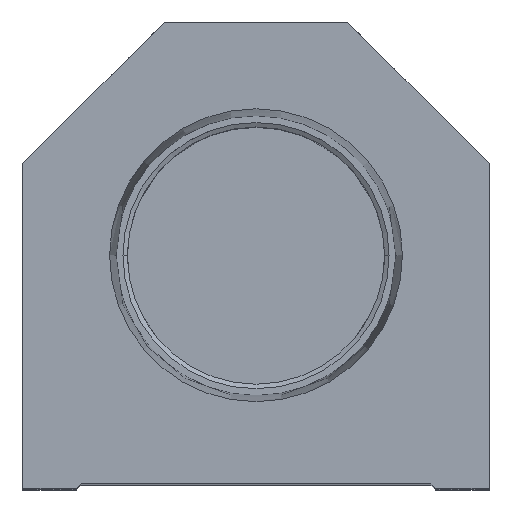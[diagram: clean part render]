
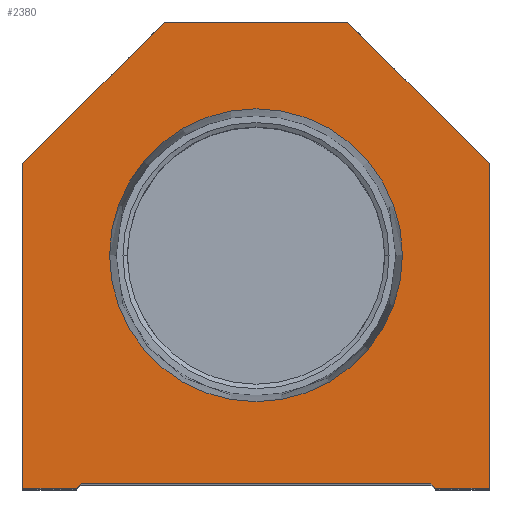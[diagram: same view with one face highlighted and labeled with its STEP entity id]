
A CAD part, top view. The second image highlights one B-rep face of the part: STEP entity #2380.
In plain terms, the highlighted planar face has unit normal (0, 0, 1).
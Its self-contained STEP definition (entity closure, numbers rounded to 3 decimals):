
#156 = CARTESIAN_POINT ( 'NONE',  ( 10., 50.8, 0. ) ) ;
#294 = ORIENTED_EDGE ( 'NONE', *, *, #15421, .T. ) ;
#336 = ORIENTED_EDGE ( 'NONE', *, *, #3726, .T. ) ;
#389 = VERTEX_POINT ( 'NONE', #13957 ) ;
#472 = LINE ( 'NONE', #15174, #5625 ) ;
#514 = CARTESIAN_POINT ( 'NONE',  ( -25.4, 0., 0. ) ) ;
#653 = LINE ( 'NONE', #847, #7011 ) ;
#717 = ORIENTED_EDGE ( 'NONE', *, *, #16349, .T. ) ;
#811 = ORIENTED_EDGE ( 'NONE', *, *, #9979, .T. ) ;
#847 = CARTESIAN_POINT ( 'NONE',  ( -19.05, 0.5, 0. ) ) ;
#918 = CARTESIAN_POINT ( 'NONE',  ( 0., 25.4, 0. ) ) ;
#1417 = CARTESIAN_POINT ( 'NONE',  ( -19.05, 0., 0. ) ) ;
#1711 = CARTESIAN_POINT ( 'NONE',  ( 19.05, 0.5, 0. ) ) ;
#1804 = CARTESIAN_POINT ( 'NONE',  ( 15.947, 25.4, 0. ) ) ;
#2027 = VERTEX_POINT ( 'NONE', #1804 ) ;
#2032 = DIRECTION ( 'NONE',  ( 1., 0., 0. ) ) ;
#2042 = DIRECTION ( 'NONE',  ( 1., 0., 0. ) ) ;
#2380 = ADVANCED_FACE ( 'NONE', ( #16688, #9630 ), #5266, .T. ) ;
#2641 = LINE ( 'NONE', #8503, #4528 ) ;
#2655 = EDGE_CURVE ( 'NONE', #6151, #4545, #4437, .T. ) ;
#3453 = ORIENTED_EDGE ( 'NONE', *, *, #16468, .T. ) ;
#3561 = DIRECTION ( 'NONE',  ( 0., 0., 1. ) ) ;
#3641 = CARTESIAN_POINT ( 'NONE',  ( 19.05, 0., 0. ) ) ;
#3690 = CIRCLE ( 'NONE', #15363, 15.947 ) ;
#3726 = EDGE_CURVE ( 'NONE', #8196, #14340, #653, .T. ) ;
#3919 = DIRECTION ( 'NONE',  ( 0.707, -0.707, 0. ) ) ;
#4387 = ORIENTED_EDGE ( 'NONE', *, *, #14028, .T. ) ;
#4437 = LINE ( 'NONE', #15863, #13828 ) ;
#4528 = VECTOR ( 'NONE', #11112, 1000. ) ;
#4545 = VERTEX_POINT ( 'NONE', #514 ) ;
#4721 = DIRECTION ( 'NONE',  ( 1., 0., 0. ) ) ;
#4757 = VERTEX_POINT ( 'NONE', #13834 ) ;
#5225 = LINE ( 'NONE', #8099, #9725 ) ;
#5266 = PLANE ( 'NONE',  #12630 ) ;
#5349 = EDGE_LOOP ( 'NONE', ( #3453, #4387, #336, #9500, #8948, #811, #294, #6467, #717, #5364 ) ) ;
#5352 = DIRECTION ( 'NONE',  ( 1., 0., 0. ) ) ;
#5364 = ORIENTED_EDGE ( 'NONE', *, *, #2655, .T. ) ;
#5625 = VECTOR ( 'NONE', #6221, 1000. ) ;
#5989 = LINE ( 'NONE', #156, #14081 ) ;
#6151 = VERTEX_POINT ( 'NONE', #16848 ) ;
#6221 = DIRECTION ( 'NONE',  ( 0.707, 0.707, 0. ) ) ;
#6272 = ORIENTED_EDGE ( 'NONE', *, *, #17681, .F. ) ;
#6467 = ORIENTED_EDGE ( 'NONE', *, *, #15540, .T. ) ;
#6651 = LINE ( 'NONE', #18059, #11264 ) ;
#7011 = VECTOR ( 'NONE', #12310, 1000. ) ;
#7425 = LINE ( 'NONE', #11907, #8720 ) ;
#7663 = CARTESIAN_POINT ( 'NONE',  ( 0., 25.4, 0. ) ) ;
#8099 = CARTESIAN_POINT ( 'NONE',  ( 9.775, 9.775, 0. ) ) ;
#8196 = VERTEX_POINT ( 'NONE', #11609 ) ;
#8503 = CARTESIAN_POINT ( 'NONE',  ( -25.4, 35.4, 0. ) ) ;
#8545 = CARTESIAN_POINT ( 'NONE',  ( -10., 50.8, 0. ) ) ;
#8720 = VECTOR ( 'NONE', #14877, 1000. ) ;
#8758 = VERTEX_POINT ( 'NONE', #10933 ) ;
#8948 = ORIENTED_EDGE ( 'NONE', *, *, #11333, .T. ) ;
#9223 = VECTOR ( 'NONE', #2042, 1000. ) ;
#9500 = ORIENTED_EDGE ( 'NONE', *, *, #17557, .T. ) ;
#9518 = CIRCLE ( 'NONE', #10111, 15.947 ) ;
#9630 = FACE_OUTER_BOUND ( 'NONE', #5349, .T. ) ;
#9724 = DIRECTION ( 'NONE',  ( 0., 0., 1. ) ) ;
#9725 = VECTOR ( 'NONE', #3919, 1000. ) ;
#9798 = CARTESIAN_POINT ( 'NONE',  ( 19.55, 0., 0. ) ) ;
#9970 = VECTOR ( 'NONE', #2032, 1000. ) ;
#9979 = EDGE_CURVE ( 'NONE', #4757, #13865, #6651, .T. ) ;
#10111 = AXIS2_PLACEMENT_3D ( 'NONE', #918, #3561, #13685 ) ;
#10475 = DIRECTION ( 'NONE',  ( 0., 0., 1. ) ) ;
#10933 = CARTESIAN_POINT ( 'NONE',  ( 10., 50.8, 0. ) ) ;
#11112 = DIRECTION ( 'NONE',  ( -0.707, -0.707, 0. ) ) ;
#11257 = EDGE_CURVE ( 'NONE', #2027, #389, #9518, .T. ) ;
#11264 = VECTOR ( 'NONE', #15253, 1000. ) ;
#11333 = EDGE_CURVE ( 'NONE', #14768, #4757, #16470, .T. ) ;
#11487 = CARTESIAN_POINT ( 'NONE',  ( 25.4, 35.4, 0. ) ) ;
#11609 = CARTESIAN_POINT ( 'NONE',  ( -19.05, 0.5, 0. ) ) ;
#11907 = CARTESIAN_POINT ( 'NONE',  ( 25.4, 35.4, 0. ) ) ;
#12171 = CARTESIAN_POINT ( 'NONE',  ( -19.55, 0., 0. ) ) ;
#12310 = DIRECTION ( 'NONE',  ( 1., 0., 0. ) ) ;
#12630 = AXIS2_PLACEMENT_3D ( 'NONE', #16772, #9724, #5352 ) ;
#12857 = LINE ( 'NONE', #1417, #9970 ) ;
#13384 = DIRECTION ( 'NONE',  ( -1., 0., 0. ) ) ;
#13435 = ORIENTED_EDGE ( 'NONE', *, *, #11257, .F. ) ;
#13685 = DIRECTION ( 'NONE',  ( 1., 0., 0. ) ) ;
#13828 = VECTOR ( 'NONE', #17356, 1000. ) ;
#13834 = CARTESIAN_POINT ( 'NONE',  ( 25.4, 0., 0. ) ) ;
#13865 = VERTEX_POINT ( 'NONE', #11487 ) ;
#13957 = CARTESIAN_POINT ( 'NONE',  ( -15.947, 25.4, 0. ) ) ;
#14028 = EDGE_CURVE ( 'NONE', #17020, #8196, #472, .T. ) ;
#14081 = VECTOR ( 'NONE', #13384, 1000. ) ;
#14340 = VERTEX_POINT ( 'NONE', #1711 ) ;
#14768 = VERTEX_POINT ( 'NONE', #9798 ) ;
#14877 = DIRECTION ( 'NONE',  ( -0.707, 0.707, 0. ) ) ;
#15174 = CARTESIAN_POINT ( 'NONE',  ( -9.775, 9.775, 0. ) ) ;
#15249 = EDGE_LOOP ( 'NONE', ( #13435, #6272 ) ) ;
#15253 = DIRECTION ( 'NONE',  ( 0., 1., 0. ) ) ;
#15363 = AXIS2_PLACEMENT_3D ( 'NONE', #7663, #10475, #4721 ) ;
#15421 = EDGE_CURVE ( 'NONE', #13865, #8758, #7425, .T. ) ;
#15540 = EDGE_CURVE ( 'NONE', #8758, #16724, #5989, .T. ) ;
#15863 = CARTESIAN_POINT ( 'NONE',  ( -25.4, 0., 0. ) ) ;
#16349 = EDGE_CURVE ( 'NONE', #16724, #6151, #2641, .T. ) ;
#16468 = EDGE_CURVE ( 'NONE', #4545, #17020, #12857, .T. ) ;
#16470 = LINE ( 'NONE', #3641, #9223 ) ;
#16688 = FACE_BOUND ( 'NONE', #15249, .T. ) ;
#16724 = VERTEX_POINT ( 'NONE', #8545 ) ;
#16772 = CARTESIAN_POINT ( 'NONE',  ( 0., 0., 0. ) ) ;
#16848 = CARTESIAN_POINT ( 'NONE',  ( -25.4, 35.4, 0. ) ) ;
#17020 = VERTEX_POINT ( 'NONE', #12171 ) ;
#17356 = DIRECTION ( 'NONE',  ( 0., -1., 0. ) ) ;
#17557 = EDGE_CURVE ( 'NONE', #14340, #14768, #5225, .T. ) ;
#17681 = EDGE_CURVE ( 'NONE', #389, #2027, #3690, .T. ) ;
#18059 = CARTESIAN_POINT ( 'NONE',  ( 25.4, 0., 0. ) ) ;
